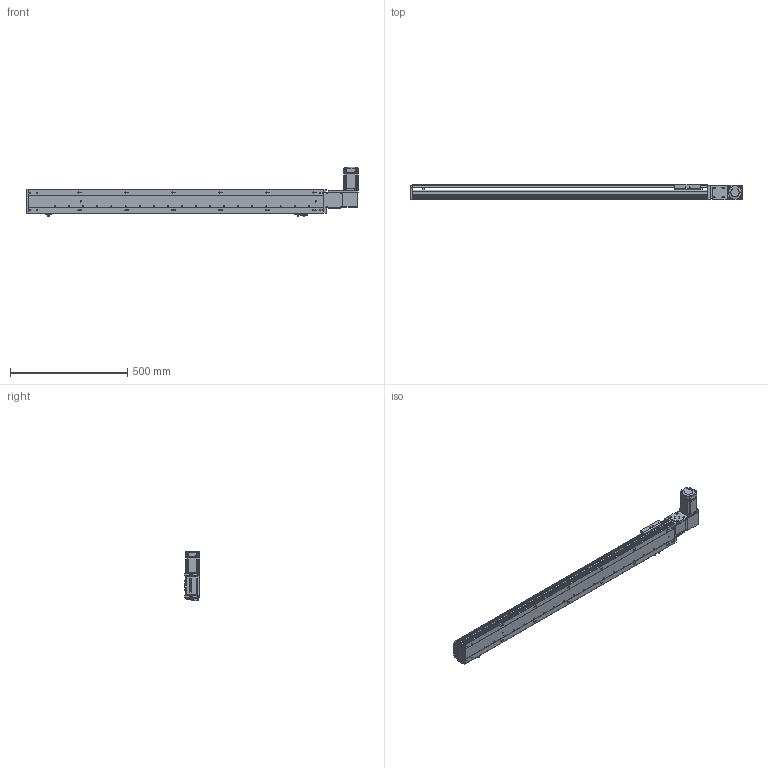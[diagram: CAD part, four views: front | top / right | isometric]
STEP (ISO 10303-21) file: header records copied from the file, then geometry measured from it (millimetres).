
FILE_DESCRIPTION (( 'STEP AP203' ), '1' );
FILE_NAME ('RY100-T-300-RK.SLDASM_1050.step', '2024-04-25T08:22:39', ( '盈信电脑' ), ( '东莞市道滘镇水果街19号' ), 'SwSTEP 2.0', 'SolidWorks 2016', '' );
FILE_SCHEMA (( 'CONFIG_CONTROL_DESIGN' ));
Length unit declared in the file: millimetre
Products named in the file (15): RY100綴裔啣; RY100-T-300-RK倰第菁釱_1050; RY100-T翋肮祭謫裔啣2; RY100-T左右折电机安装板; RY80-T肮祭謫俋欶; RY100-T-300-RK.SLDASM_1050; 滅袉蝶18-10; RY100-T肮祭謫臏賑輸; 1; RY100-T肮祭謫翋盓傅釱; RY100-T-300-RK倰第奻裔_1050; 侂狟200W萇儂; 覜茼ん672; RY100-T粣創揤踡裔; RY100俋离覜茼え
Assembly tree (18 placements, depth 3):
  RY100-T-300-RK.SLDASM_1050
    RY100-T-300-RK倰第菁釱_1050
    RY100-T-300-RK倰第奻裔_1050
    RY100-T肮祭謫臏賑輸
    RY100綴裔啣
    覜茼ん672  x3
    RY100俋离覜茼え
    RY100-T肮祭謫翋盓傅釱
    RY100-T左右折电机安装板
    侂狟200W萇儂
      1
    RY100-T粣創揤踡裔
    滅袉蝶18-10  x2
    RY100-T翋肮祭謫裔啣2  x2
    RY80-T肮祭謫俋欶
Bounding box: 1414 x 66 x 209.7 mm (x, y, z)
Volume: 2707783.8 mm3; surface area: 1113130.7 mm2
Topology: 17 solids, 17 shells, 2161 faces, 6004 edges, 3902 vertices
Faces by surface type: plane 1185, cylinder 769, cone 129, bspline 78
Entity records: 68816 total; most frequent: CARTESIAN_POINT 16519, ORIENTED_EDGE 10744, DIRECTION 10236, EDGE_CURVE 5372, VERTEX_POINT 3538, VECTOR 3500, LINE 3500, AXIS2_PLACEMENT_3D 3368
